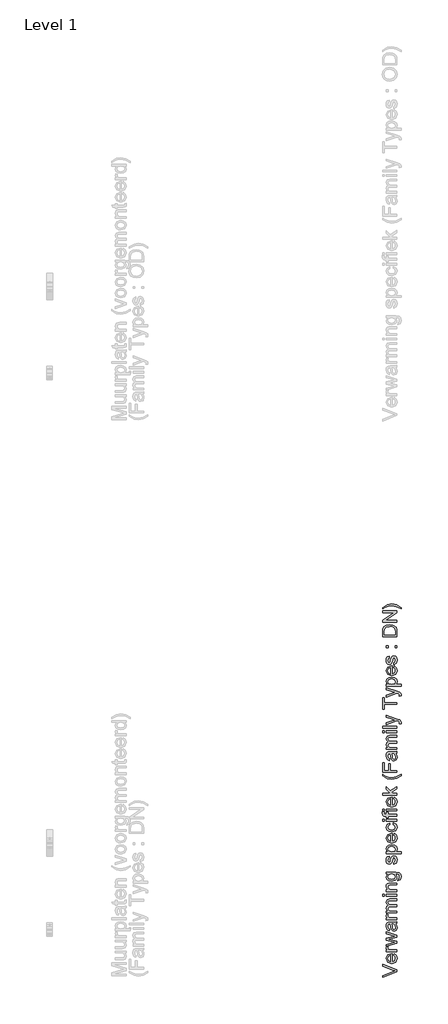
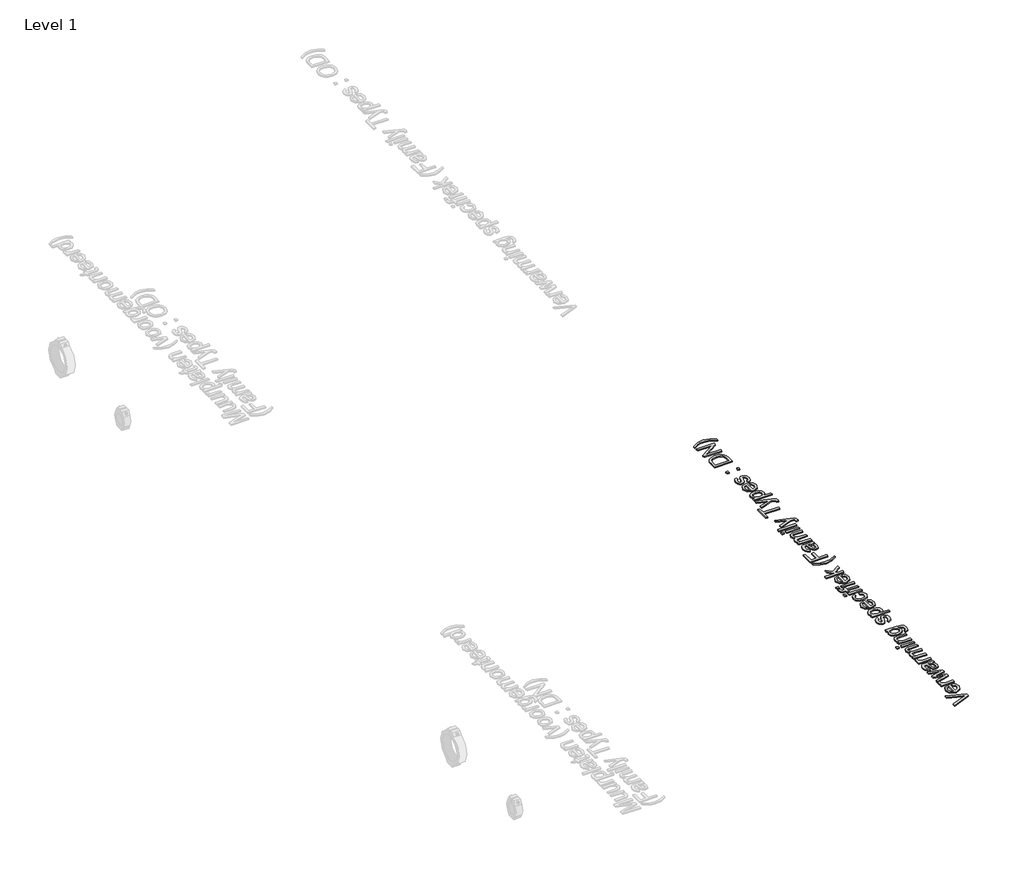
# One storey, part 5 of 11: 1 proxy.
"""IFC4 building model written with IfcOpenShell, lengths in millimetres."""

from ifc_helpers import new_model, si_unit, origin, origin_with_axes, place, context, project, spatial, polyline, outline, extrude, element, save

model = new_model("IFC4")

# Units and contexts
model_context = context("Model", 3, world=origin())
ifc_project = project(units=[si_unit("LENGTHUNIT", "METRE", prefix="MILLI")], contexts=[model_context])

# Site, building, storey
site = spatial("IfcSite", under=ifc_project)
building = spatial("IfcBuilding", under=site)
storey = spatial("IfcBuildingStorey", under=building, Name="Level 1", Elevation=0.0)

# Proxy
placement = place(None, origin())
element("IfcBuildingElementProxy", 1, Name="S", ObjectType="S", at=placement, inside=storey, context=model_context, shape_type="SweptSolid", body=[
    extrude(outline(polyline([(3505.0, 143.2502706), (3454.7718449, 123.2620155), (3454.7718449, 129.9819933), (3490.9591705, 143.3606352), (3499.1138881, 146.0706992), (3490.9591705, 148.743975), (3454.7718449, 162.1594051), (3454.7718449, 168.8793829), (3505.0, 149.7372564), (3505.0, 143.2502706)])), origin_with_axes(), (0.0, 0.0, 1.0), 3.0),
    extrude(outline(polyline([(3494.0125911, 199.756945), (3494.797406, 205.9128371), (3502.9030726, 200.1554839), (3505.7848149, 189.4317237), (3500.8122766, 176.3964383), (3486.8634176, 171.5771842), (3472.4547062, 176.4454893), (3467.3288837, 189.0761044), (3472.4424434, 201.344969), (3486.8266294, 206.1090408), (3488.5188866, 206.0722526), (3488.5188866, 177.8557036), (3496.6736042, 181.4670785), (3499.5062955, 189.554351), (3498.1941831, 195.7102431), (3494.0125911, 199.756945)]), holes=[polyline([(3482.2403672, 177.8557036), (3482.2403672, 199.8305214), (3476.550459, 197.3166611), (3473.6074031, 189.051579), (3475.9557165, 181.3199257), (3482.2403672, 177.8557036)])]), origin_with_axes(), (0.0, 0.0, 1.0), 3.0),
    extrude(outline(polyline([(3505.0, 212.3875602), (3468.1136986, 212.3875602), (3468.1136986, 217.8812647), (3473.5706149, 217.8812647), (3468.5428943, 221.7808138), (3467.3288837, 225.7048884), (3469.2663955, 232.0079333), (3474.8949901, 229.9110059), (3473.6074031, 225.496422), (3474.8459391, 221.9463607), (3478.2795044, 219.6838864), (3485.6126189, 218.6660796), (3505.0, 218.6660796), (3505.0, 212.3875602)])), origin_with_axes(), (0.0, 0.0, 1.0), 3.0),
    extrude(outline(polyline([(3505.0, 242.0511117), (3468.1136986, 230.8307109), (3468.1136986, 237.3544849), (3489.6347953, 243.7188435), (3497.323529, 245.6195671), (3489.9168382, 247.1769342), (3468.1136986, 252.241443), (3468.1136986, 259.7217102), (3489.8555245, 264.7616936), (3496.5632396, 266.1473824), (3489.4876425, 268.1339452), (3468.1136986, 274.5105665), (3468.1136986, 281.058866), (3505.0, 269.752626), (3505.0, 262.1619941), (3483.3685387, 257.34274), (3476.6240354, 255.9447884), (3505.0, 249.7275827), (3505.0, 242.0511117)])), origin_with_axes(), (0.0, 0.0, 1.0), 3.0),
    extrude(outline(polyline([(3500.2911105, 308.9197957), (3504.5462789, 302.8313487), (3505.7848149, 296.1052396), (3502.8049708, 286.9878975), (3495.1898135, 283.8057182), (3490.2234065, 285.007466), (3486.618163, 288.1651198), (3484.5580238, 292.5613097), (3483.6137933, 297.9937005), (3481.4555523, 308.8830075), (3475.4222876, 307.1907504), (3473.6074031, 300.2500434), (3474.8152823, 293.8979476), (3479.1011075, 290.8690525), (3478.3162926, 284.5905331), (3472.184926, 287.3067285), (3468.5919452, 292.7759075), (3467.3288837, 301.0593838), (3468.4447924, 308.6684097), (3471.2468269, 312.9664977), (3475.5081267, 314.8917468), (3481.0018312, 315.1983151), (3488.8131922, 315.1983151), (3499.7208934, 315.5171462), (3505.0, 316.767945), (3505.0, 310.4894256), (3500.2911105, 308.9197957)]), holes=[polyline([(3487.7340717, 308.9197957), (3489.6593208, 298.7907781), (3490.6771277, 293.3890442), (3492.3325966, 290.9426289), (3494.7483551, 290.0842376), (3498.1451322, 291.9543044), (3499.5062955, 297.4418775), (3498.0041107, 303.7939733), (3494.3682103, 307.8897261), (3489.512168, 308.8830075), (3487.7340717, 308.9197957)])]), origin_with_axes(), (0.0, 0.0, 1.0), 3.0),
    extrude(outline(polyline([(3505.0, 323.8312793), (3468.1136986, 323.8312793), (3468.1136986, 329.3249837), (3473.5706149, 329.3249837), (3468.5428943, 333.2245329), (3467.3288837, 337.1486075), (3469.2663955, 343.4516523), (3474.8949901, 341.354725), (3473.6074031, 336.940141), (3474.8459391, 333.3900798), (3478.2795044, 331.1276055), (3485.6126189, 330.1097987), (3505.0, 330.1097987), (3505.0, 323.8312793)])), origin_with_axes(), (0.0, 0.0, 1.0), 3.0),
    extrude(outline(polyline([(3505.0, 347.375727), (3468.1136986, 347.375727), (3468.1136986, 353.6542463), (3474.1837515, 353.6542463), (3469.2112132, 357.9707284), (3467.3288837, 364.1143577), (3469.2480014, 370.4051399), (3474.6252099, 373.8632306), (3469.1529653, 378.7621925), (3467.3288837, 384.9487414), (3470.3639102, 393.1586413), (3479.7142442, 396.0342522), (3505.0, 396.0342522), (3505.0, 389.7557328), (3482.4120455, 389.7557328), (3477.1697271, 389.173253), (3474.5884217, 387.0640629), (3473.6074031, 383.4772134), (3476.1212634, 377.3029273), (3484.1778791, 374.8442493), (3505.0, 374.8442493), (3505.0, 368.5657299), (3481.7130697, 368.5657299), (3475.6307541, 367.112596), (3473.6074031, 362.3485242), (3474.9563037, 357.7009483), (3478.9049038, 354.6107395), (3486.3974338, 353.6542463), (3505.0, 353.6542463), (3505.0, 347.375727)])), origin_with_axes(), (0.0, 0.0, 1.0), 3.0),
    extrude(outline(polyline([(3461.0503643, 405.4520313), (3454.7718449, 405.4520313), (3454.7718449, 411.7305507), (3461.0503643, 411.7305507), (3461.0503643, 405.4520313)])), origin_with_axes(), (0.0, 0.0, 1.0), 3.0),
    extrude(outline(polyline([(3505.0, 405.4520313), (3468.1136986, 405.4520313), (3468.1136986, 411.7305507), (3505.0, 411.7305507), (3505.0, 405.4520313)])), origin_with_axes(), (0.0, 0.0, 1.0), 3.0),
    extrude(outline(polyline([(3505.0, 421.1483297), (3468.1136986, 421.1483297), (3468.1136986, 427.4268491), (3473.2640465, 427.4268491), (3468.8126744, 432.2277092), (3467.3288837, 438.78214), (3468.5245002, 444.7111715), (3471.6637599, 448.7578735), (3476.2806789, 450.640203), (3482.3507318, 450.9712968), (3505.0, 450.9712968), (3505.0, 444.6927774), (3483.1968604, 444.6927774), (3477.6418423, 443.9692762), (3474.7049177, 441.4124963), (3473.6074031, 437.1021456), (3476.0722124, 430.2901973), (3485.4286779, 427.4268491), (3505.0, 427.4268491), (3505.0, 421.1483297)])), origin_with_axes(), (0.0, 0.0, 1.0), 3.0),
    extrude(outline(polyline([(3508.1392597, 458.0346311), (3508.9240746, 464.3131505), (3512.2350126, 466.3487642), (3513.6329642, 472.4433426), (3512.0510716, 478.8690148), (3507.6119622, 481.9346981), (3500.2911105, 482.3638937), (3505.0, 472.5537072), (3503.6296396, 466.0805169), (3499.5185583, 461.2535986), (3486.3729083, 457.2498162), (3476.6424295, 459.0463066), (3469.7569049, 464.2457055), (3467.3288837, 472.2471389), (3472.8225882, 482.3638937), (3468.1136986, 482.3638937), (3468.1136986, 488.6424131), (3499.9600167, 488.6424131), (3512.1553048, 486.9256305), (3517.8268189, 481.4871083), (3519.9114835, 472.3207153), (3516.9745589, 461.878998), (3508.1392597, 458.0346311)]), holes=[polyline([(3485.9437126, 463.5283356), (3495.6619287, 466.2077428), (3498.7214806, 472.9338519), (3495.6803228, 479.6476983), (3486.1276536, 482.3638937), (3476.7650569, 479.5679906), (3473.6074031, 472.8357501), (3476.7160059, 466.244531), (3485.9437126, 463.5283356)])]), origin_with_axes(), (0.0, 0.0, 1.0), 3.0),
    extrude(outline(polyline([(3494.0125911, 515.3261205), (3493.2277762, 521.6046399), (3497.8876148, 524.5109076), (3499.5062955, 531.1695718), (3498.0225048, 537.5707185), (3494.5398886, 539.6553831), (3491.71946, 537.5584557), (3489.9291009, 531.0959954), (3486.8572863, 521.6414281), (3483.2704368, 517.5150184), (3478.205928, 516.1109354), (3473.5276953, 517.2391069), (3469.9531086, 520.3170529), (3468.0953045, 524.3085725), (3467.3288837, 529.7103065), (3468.5612884, 537.3499893), (3471.8967518, 542.2060316), (3477.5314777, 544.3642726), (3478.3162926, 538.0857533), (3474.8520705, 535.7251771), (3473.6074031, 530.2008158), (3474.7968882, 524.1920766), (3477.5682659, 522.3894548), (3479.3954131, 523.1374815), (3480.781102, 525.4796636), (3482.1177399, 530.8875289), (3485.0730586, 540.1029729), (3488.4207848, 544.3826667), (3493.877701, 545.9339025), (3499.8864403, 544.1128866), (3504.2458419, 538.8583055), (3505.7848149, 531.0837326), (3502.8172335, 520.1331119), (3494.0125911, 515.3261205)])), origin_with_axes(), (0.0, 0.0, 1.0), 3.0),
    extrude(outline(polyline([(3519.1266686, 552.9972368), (3468.1136986, 552.9972368), (3468.1136986, 559.2757562), (3474.2695907, 559.2757562), (3469.0640604, 563.6167637), (3467.3288837, 569.4783502), (3469.7569049, 577.436864), (3476.59951, 582.6362629), (3486.2748064, 584.3898337), (3496.4467436, 582.4094023), (3503.3751879, 576.6581805), (3505.7848149, 568.7180607), (3504.1722655, 563.2550131), (3500.0949067, 559.2757562), (3519.1266686, 559.2757562), (3519.1266686, 552.9972368)]), holes=[polyline([(3486.8511549, 559.2757562), (3496.4160868, 561.9919516), (3499.5062955, 568.5831707), (3496.3057222, 575.3092798), (3486.385171, 578.1113143), (3476.7957137, 575.3767248), (3473.6074031, 568.8406881), (3476.9980488, 562.1758926), (3486.8511549, 559.2757562)])]), origin_with_axes(), (0.0, 0.0, 1.0), 3.0),
    extrude(outline(polyline([(3494.0125911, 617.2784841), (3494.797406, 623.4343761), (3502.9030726, 617.6770229), (3505.7848149, 606.9532628), (3500.8122766, 593.9179774), (3486.8634176, 589.0987233), (3472.4547062, 593.9670283), (3467.3288837, 606.5976435), (3472.4424434, 618.866508), (3486.8266294, 623.6305799), (3488.5188866, 623.5937917), (3488.5188866, 595.3772426), (3496.6736042, 598.9886176), (3499.5062955, 607.0758901), (3498.1941831, 613.2317821), (3494.0125911, 617.2784841)]), holes=[polyline([(3482.2403672, 595.3772426), (3482.2403672, 617.3520605), (3476.550459, 614.8382002), (3473.6074031, 606.573118), (3475.9557165, 598.8414648), (3482.2403672, 595.3772426)])]), origin_with_axes(), (0.0, 0.0, 1.0), 3.0),
    extrude(outline(polyline([(3491.6581463, 653.453547), (3492.4429612, 659.7320663), (3502.2470164, 654.692083), (3505.7848149, 644.7347437), (3500.8490648, 632.8337611), (3486.6917394, 628.3394694), (3476.2622848, 630.2585872), (3469.5607011, 636.1079109), (3467.3288837, 644.6489045), (3470.394567, 654.1954423), (3479.1011075, 658.9472514), (3479.8859225, 652.668732), (3475.1831643, 649.7563329), (3473.6074031, 644.6979555), (3476.7098746, 637.4200233), (3486.5200611, 634.6179888), (3496.4222181, 637.3587097), (3499.5062955, 644.5262772), (3497.5810464, 650.443046), (3491.6581463, 653.453547)])), origin_with_axes(), (0.0, 0.0, 1.0), 3.0),
    extrude(outline(polyline([(3461.0503643, 665.2257708), (3454.7718449, 665.2257708), (3454.7718449, 671.5042902), (3461.0503643, 671.5042902), (3461.0503643, 665.2257708)])), origin_with_axes(), (0.0, 0.0, 1.0), 3.0),
    extrude(outline(polyline([(3505.0, 665.2257708), (3468.1136986, 665.2257708), (3468.1136986, 671.5042902), (3505.0, 671.5042902), (3505.0, 665.2257708)])), origin_with_axes(), (0.0, 0.0, 1.0), 3.0),
    extrude(outline(polyline([(3505.0, 682.4916991), (3474.392218, 682.4916991), (3474.392218, 676.9979946), (3468.1136986, 676.9979946), (3468.1136986, 682.4916991), (3464.3980905, 682.4916991), (3459.1619034, 683.1538867), (3455.4217698, 686.3667228), (3453.98703, 692.6942931), (3454.6737431, 698.4209895), (3460.559855, 697.5012845), (3460.2655494, 693.8837782), (3461.3078817, 689.9290468), (3465.1951681, 688.7702185), (3468.1136986, 688.7702185), (3468.1136986, 695.8335528), (3474.392218, 695.8335528), (3474.392218, 688.7702185), (3505.0, 688.7702185), (3505.0, 682.4916991)])), origin_with_axes(), (0.0, 0.0, 1.0), 3.0),
    extrude(outline(polyline([(3461.0503643, 701.3272573), (3454.7718449, 701.3272573), (3454.7718449, 707.6057766), (3461.0503643, 707.6057766), (3461.0503643, 701.3272573)])), origin_with_axes(), (0.0, 0.0, 1.0), 3.0),
    extrude(outline(polyline([(3505.0, 701.3272573), (3468.1136986, 701.3272573), (3468.1136986, 707.6057766), (3505.0, 707.6057766), (3505.0, 701.3272573)])), origin_with_axes(), (0.0, 0.0, 1.0), 3.0),
    extrude(outline(polyline([(3494.0125911, 742.8488718), (3494.797406, 749.0047638), (3502.9030726, 743.2474106), (3505.7848149, 732.5236504), (3500.8122766, 719.4883651), (3486.8634176, 714.6691109), (3472.4547062, 719.537416), (3467.3288837, 732.1680312), (3472.4424434, 744.4368957), (3486.8266294, 749.2009676), (3488.5188866, 749.1641794), (3488.5188866, 720.9476303), (3496.6736042, 724.5590053), (3499.5062955, 732.6462778), (3498.1941831, 738.8021698), (3494.0125911, 742.8488718)]), holes=[polyline([(3482.2403672, 720.9476303), (3482.2403672, 742.9224482), (3476.550459, 740.4085879), (3473.6074031, 732.1435057), (3475.9557165, 724.4118525), (3482.2403672, 720.9476303)])]), origin_with_axes(), (0.0, 0.0, 1.0), 3.0),
    extrude(outline(polyline([(3505.0, 755.4794869), (3454.7718449, 755.4794869), (3454.7718449, 761.7580063), (3481.7621206, 761.7580063), (3468.1136986, 775.835624), (3468.1136986, 784.5176391), (3481.9337989, 770.2683432), (3505.0, 785.302454), (3505.0, 777.9693396), (3486.2993319, 765.7679201), (3490.1866183, 761.7580063), (3505.0, 761.7580063), (3505.0, 755.4794869)])), origin_with_axes(), (0.0, 0.0, 1.0), 3.0),
    extrude(outline(polyline([(3519.1266686, 822.9735703), (3504.3991261, 814.0585633), (3486.9124686, 810.4165316), (3471.6453658, 813.1388583), (3454.7718449, 822.9735703), (3454.7718449, 827.6824599), (3464.7169215, 821.8086107), (3474.3554298, 818.2769435), (3486.9492568, 816.6950509), (3503.0440941, 819.4419032), (3519.1266686, 827.6824599), (3519.1266686, 822.9735703)])), origin_with_axes(), (0.0, 0.0, 1.0), 3.0),
    extrude(outline(polyline([(3505.0, 834.7457942), (3454.7718449, 834.7457942), (3454.7718449, 868.4928359), (3461.0503643, 868.4928359), (3461.0503643, 841.0243136), (3475.9618478, 841.0243136), (3475.9618478, 864.5687613), (3482.2403672, 864.5687613), (3482.2403672, 841.0243136), (3505.0, 841.0243136), (3505.0, 834.7457942)])), origin_with_axes(), (0.0, 0.0, 1.0), 3.0),
    extrude(outline(polyline([(3500.2911105, 899.8854328), (3504.5462789, 893.7969858), (3505.7848149, 887.0708766), (3502.8049708, 877.9535345), (3495.1898135, 874.7713553), (3490.2234065, 875.9731031), (3486.618163, 879.1307569), (3484.5580238, 883.5269467), (3483.6137933, 888.9593375), (3481.4555523, 899.8486446), (3475.4222876, 898.1563874), (3473.6074031, 891.2156804), (3474.8152823, 884.8635847), (3479.1011075, 881.8346896), (3478.3162926, 875.5561702), (3472.184926, 878.2723656), (3468.5919452, 883.7415446), (3467.3288837, 892.0250208), (3468.4447924, 899.6340468), (3471.2468269, 903.9321347), (3475.5081267, 905.8573838), (3481.0018312, 906.1639522), (3488.8131922, 906.1639522), (3499.7208934, 906.4827832), (3505.0, 907.733582), (3505.0, 901.4550626), (3500.2911105, 899.8854328)]), holes=[polyline([(3487.7340717, 899.8854328), (3489.6593208, 889.7564152), (3490.6771277, 884.3546812), (3492.3325966, 881.908266), (3494.7483551, 881.0498746), (3498.1451322, 882.9199414), (3499.5062955, 888.4075145), (3498.0041107, 894.7596103), (3494.3682103, 898.8553632), (3489.512168, 899.8486446), (3487.7340717, 899.8854328)])]), origin_with_axes(), (0.0, 0.0, 1.0), 3.0),
    extrude(outline(polyline([(3505.0, 914.7969163), (3468.1136986, 914.7969163), (3468.1136986, 921.0754357), (3474.1837515, 921.0754357), (3469.2112132, 925.3919178), (3467.3288837, 931.5355471), (3469.2480014, 937.8263292), (3474.6252099, 941.28442), (3469.1529653, 946.1833819), (3467.3288837, 952.3699308), (3470.3639102, 960.5798306), (3479.7142442, 963.4554416), (3505.0, 963.4554416), (3505.0, 957.1769222), (3482.4120455, 957.1769222), (3477.1697271, 956.5944423), (3474.5884217, 954.4852522), (3473.6074031, 950.8984028), (3476.1212634, 944.7241166), (3484.1778791, 942.2654386), (3505.0, 942.2654386), (3505.0, 935.9869192), (3481.7130697, 935.9869192), (3475.6307541, 934.5337854), (3473.6074031, 929.7697135), (3474.9563037, 925.1221377), (3478.9049038, 922.0319289), (3486.3974338, 921.0754357), (3505.0, 921.0754357), (3505.0, 914.7969163)])), origin_with_axes(), (0.0, 0.0, 1.0), 3.0),
    extrude(outline(polyline([(3461.0503643, 972.8732206), (3454.7718449, 972.8732206), (3454.7718449, 979.15174), (3461.0503643, 979.15174), (3461.0503643, 972.8732206)])), origin_with_axes(), (0.0, 0.0, 1.0), 3.0),
    extrude(outline(polyline([(3505.0, 972.8732206), (3468.1136986, 972.8732206), (3468.1136986, 979.15174), (3505.0, 979.15174), (3505.0, 972.8732206)])), origin_with_axes(), (0.0, 0.0, 1.0), 3.0),
    extrude(outline(polyline([(3505.0, 988.5695191), (3454.7718449, 988.5695191), (3454.7718449, 994.8480385), (3505.0, 994.8480385), (3505.0, 988.5695191)])), origin_with_axes(), (0.0, 0.0, 1.0), 3.0),
    extrude(outline(polyline([(3519.1266686, 1004.2658176), (3513.0811412, 1003.4810026), (3513.6329642, 1006.6693133), (3512.9401197, 1009.6491574), (3511.0087393, 1011.4763047), (3506.3856888, 1013.1930873), (3504.8651099, 1013.6835966), (3468.1136986, 1000.3417429), (3468.1136986, 1006.9636189), (3488.592463, 1014.0392159), (3496.7839688, 1016.5040253), (3489.5489562, 1018.9688346), (3468.1136986, 1026.2406354), (3468.1136986, 1032.8134604), (3505.8829168, 1019.9743787), (3514.0744225, 1016.6389153), (3518.5012692, 1012.9968836), (3519.9114835, 1008.104053), (3519.1266686, 1004.2658176)])), origin_with_axes(), (0.0, 0.0, 1.0), 3.0),
    extrude(outline(polyline([(3505.0, 1070.975086), (3461.0503643, 1070.975086), (3461.0503643, 1054.4939726), (3454.7718449, 1054.4939726), (3454.7718449, 1093.7347188), (3461.0503643, 1093.7347188), (3461.0503643, 1077.2536054), (3505.0, 1077.2536054), (3505.0, 1070.975086)])), origin_with_axes(), (0.0, 0.0, 1.0), 3.0),
    extrude(outline(polyline([(3519.1266686, 1100.0132382), (3513.0811412, 1099.2284232), (3513.6329642, 1102.4167339), (3512.9401197, 1105.396578), (3511.0087393, 1107.2237253), (3506.3856888, 1108.9405079), (3504.8651099, 1109.4310172), (3468.1136986, 1096.0891635), (3468.1136986, 1102.7110395), (3488.592463, 1109.7866365), (3496.7839688, 1112.2514459), (3489.5489562, 1114.7162552), (3468.1136986, 1121.988056), (3468.1136986, 1128.560881), (3505.8829168, 1115.7217994), (3514.0744225, 1112.3863359), (3518.5012692, 1108.7443042), (3519.9114835, 1103.8514736), (3519.1266686, 1100.0132382)])), origin_with_axes(), (0.0, 0.0, 1.0), 3.0),
    extrude(outline(polyline([(3519.1266686, 1133.7602799), (3468.1136986, 1133.7602799), (3468.1136986, 1140.0387992), (3474.2695907, 1140.0387992), (3469.0640604, 1144.3798068), (3467.3288837, 1150.2413932), (3469.7569049, 1158.1999071), (3476.59951, 1163.3993059), (3486.2748064, 1165.1528768), (3496.4467436, 1163.1724454), (3503.3751879, 1157.4212235), (3505.7848149, 1149.4811038), (3504.1722655, 1144.0180562), (3500.0949067, 1140.0387992), (3519.1266686, 1140.0387992), (3519.1266686, 1133.7602799)]), holes=[polyline([(3486.8511549, 1140.0387992), (3496.4160868, 1142.7549946), (3499.5062955, 1149.3462137), (3496.3057222, 1156.0723229), (3486.385171, 1158.8743574), (3476.7957137, 1156.1397679), (3473.6074031, 1149.6037311), (3476.9980488, 1142.9389356), (3486.8511549, 1140.0387992)])]), origin_with_axes(), (0.0, 0.0, 1.0), 3.0),
    extrude(outline(polyline([(3494.0125911, 1198.0415271), (3494.797406, 1204.1974192), (3502.9030726, 1198.440066), (3505.7848149, 1187.7163058), (3500.8122766, 1174.6810205), (3486.8634176, 1169.8617663), (3472.4547062, 1174.7300714), (3467.3288837, 1187.3606866), (3472.4424434, 1199.6295511), (3486.8266294, 1204.3936229), (3488.5188866, 1204.3568347), (3488.5188866, 1176.1402857), (3496.6736042, 1179.7516606), (3499.5062955, 1187.8389331), (3498.1941831, 1193.9948252), (3494.0125911, 1198.0415271)]), holes=[polyline([(3482.2403672, 1176.1402857), (3482.2403672, 1198.1151035), (3476.550459, 1195.6012432), (3473.6074031, 1187.3361611), (3475.9557165, 1179.6045078), (3482.2403672, 1176.1402857)])]), origin_with_axes(), (0.0, 0.0, 1.0), 3.0),
    extrude(outline(polyline([(3494.0125911, 1208.3176975), (3493.2277762, 1214.5962169), (3497.8876148, 1217.5024847), (3499.5062955, 1224.1611488), (3498.0225048, 1230.5622955), (3494.5398886, 1232.6469602), (3491.71946, 1230.5500328), (3489.9291009, 1224.0875724), (3486.8572863, 1214.6330051), (3483.2704368, 1210.5065954), (3478.205928, 1209.1025125), (3473.5276953, 1210.2306839), (3469.9531086, 1213.3086299), (3468.0953045, 1217.3001496), (3467.3288837, 1222.7018836), (3468.5612884, 1230.3415663), (3471.8967518, 1235.1976087), (3477.5314777, 1237.3558497), (3478.3162926, 1231.0773303), (3474.8520705, 1228.7167542), (3473.6074031, 1223.1923929), (3474.7968882, 1217.1836536), (3477.5682659, 1215.3810319), (3479.3954131, 1216.1290586), (3480.781102, 1218.4712406), (3482.1177399, 1223.8791059), (3485.0730586, 1233.0945499), (3488.4207848, 1237.3742438), (3493.877701, 1238.9254795), (3499.8864403, 1237.1044637), (3504.2458419, 1231.8498825), (3505.7848149, 1224.0753097), (3502.8172335, 1213.1246889), (3494.0125911, 1208.3176975)])), origin_with_axes(), (0.0, 0.0, 1.0), 3.0),
    extrude(outline(polyline([(3474.392218, 1267.1788168), (3468.1136986, 1267.1788168), (3468.1136986, 1273.4573362), (3474.392218, 1273.4573362), (3474.392218, 1267.1788168)])), origin_with_axes(), (0.0, 0.0, 1.0), 3.0),
    extrude(outline(polyline([(3505.0, 1267.1788168), (3498.7214806, 1267.1788168), (3498.7214806, 1273.4573362), (3505.0, 1273.4573362), (3505.0, 1267.1788168)])), origin_with_axes(), (0.0, 0.0, 1.0), 3.0),
    extrude(outline(polyline([(3505.0, 1305.634748), (3454.7718449, 1305.634748), (3454.7718449, 1322.96199), (3455.4953462, 1331.9260479), (3459.088327, 1339.3082133), (3467.6722402, 1345.2556389), (3479.6161423, 1347.2299389), (3489.7512913, 1345.893301), (3497.0660116, 1342.4597357), (3501.621617, 1337.8734735), (3504.1416087, 1331.8708656), (3505.0, 1323.7958558), (3505.0, 1305.634748)]), holes=[polyline([(3498.7214806, 1311.9132674), (3498.7214806, 1323.0233036), (3497.8140384, 1331.1044448), (3495.2511271, 1335.7642834), (3489.0155273, 1339.5841248), (3479.5180405, 1340.9514195), (3467.6231893, 1338.2720123), (3462.0559084, 1331.7543697), (3461.0503643, 1322.8516254), (3461.0503643, 1311.9132674), (3498.7214806, 1311.9132674)])]), origin_with_axes(), (0.0, 0.0, 1.0), 3.0),
    extrude(outline(polyline([(3505.0, 1355.8629031), (3454.7718449, 1355.8629031), (3454.7718449, 1362.5828809), (3494.5644141, 1388.8251298), (3454.7718449, 1388.8251298), (3454.7718449, 1395.1036492), (3505.0, 1395.1036492), (3505.0, 1388.3836714), (3465.1951681, 1362.1414225), (3505.0, 1362.1414225), (3505.0, 1355.8629031)])), origin_with_axes(), (0.0, 0.0, 1.0), 3.0),
    extrude(outline(polyline([(3519.1266686, 1406.8758731), (3519.1266686, 1402.1669835), (3503.0440941, 1410.4075402), (3486.9492568, 1413.1543925), (3474.4657944, 1411.5724999), (3464.8150234, 1408.0776209), (3454.7718449, 1402.1669835), (3454.7718449, 1406.8758731), (3471.6453658, 1416.7105851), (3486.9124686, 1419.4329118), (3504.3991261, 1415.772486), (3519.1266686, 1406.8758731)])), origin_with_axes(), (0.0, 0.0, 1.0), 3.0),
])

save(model, "model.ifc")
